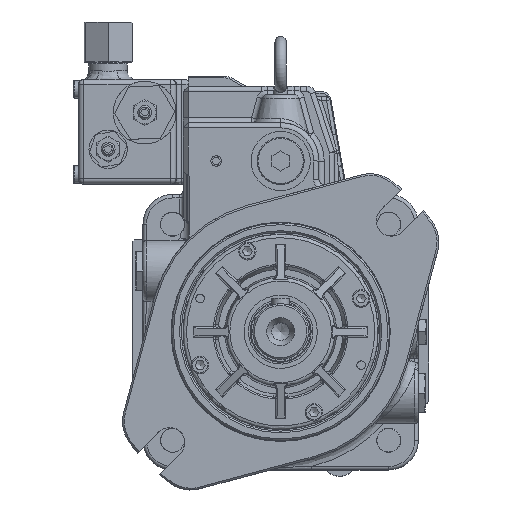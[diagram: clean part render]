
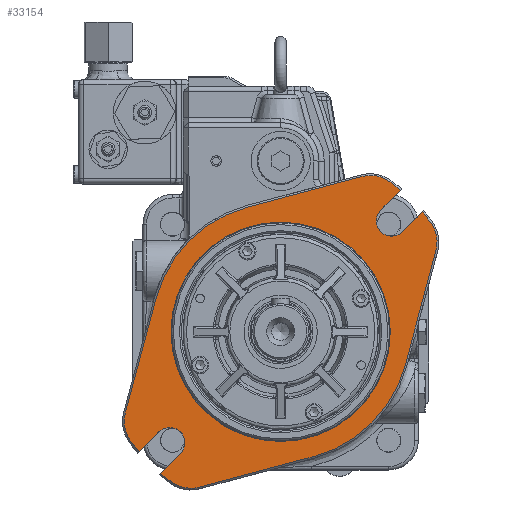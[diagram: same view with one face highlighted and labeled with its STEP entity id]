
A CAD part, top view. The second image highlights one B-rep face of the part: STEP entity #33154.
In plain terms, the highlighted planar face has unit normal (0, 0, 1).
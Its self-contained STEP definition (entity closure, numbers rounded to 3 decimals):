
#24979=CARTESIAN_POINT('',(89.092,46.582,19.));
#24980=VERTEX_POINT('',#24979);
#24987=CARTESIAN_POINT('',(71.479,-19.153,19.));
#24988=VERTEX_POINT('',#24987);
#24989=CARTESIAN_POINT('',(89.092,46.582,19.));
#24990=DIRECTION('',(-0.259,-0.966,0.));
#24991=VECTOR('',#24990,68.053);
#24992=LINE('',#24989,#24991);
#24993=EDGE_CURVE('',#24980,#24988,#24992,.T.);
#32332=CARTESIAN_POINT('',(68.865,81.239,19.));
#32333=VERTEX_POINT('',#32332);
#32347=CARTESIAN_POINT('',(57.452,69.827,19.));
#32348=VERTEX_POINT('',#32347);
#32349=CARTESIAN_POINT('',(68.865,81.239,19.));
#32350=DIRECTION('',(-0.707,-0.707,0.));
#32351=VECTOR('',#32350,16.14);
#32352=LINE('',#32349,#32351);
#32353=EDGE_CURVE('',#32333,#32348,#32352,.T.);
#32604=CARTESIAN_POINT('',(-69.827,-57.452,19.));
#32605=VERTEX_POINT('',#32604);
#32612=CARTESIAN_POINT('',(-81.239,-68.865,19.));
#32613=VERTEX_POINT('',#32612);
#32614=CARTESIAN_POINT('',(-69.827,-57.452,19.));
#32615=DIRECTION('',(-0.707,-0.707,0.));
#32616=VECTOR('',#32615,16.14);
#32617=LINE('',#32614,#32616);
#32618=EDGE_CURVE('',#32605,#32613,#32617,.T.);
#32818=CARTESIAN_POINT('',(-68.865,-81.239,19.));
#32819=VERTEX_POINT('',#32818);
#32833=CARTESIAN_POINT('',(-57.452,-69.827,19.));
#32834=VERTEX_POINT('',#32833);
#32835=CARTESIAN_POINT('',(-68.865,-81.239,19.));
#32836=DIRECTION('',(0.707,0.707,0.));
#32837=VECTOR('',#32836,16.14);
#32838=LINE('',#32835,#32837);
#32839=EDGE_CURVE('',#32819,#32834,#32838,.T.);
#32858=CARTESIAN_POINT('',(81.239,68.865,19.));
#32859=VERTEX_POINT('',#32858);
#32873=CARTESIAN_POINT('',(86.1,62.682,19.));
#32874=VERTEX_POINT('',#32873);
#32875=CARTESIAN_POINT('',(0.,0.,19.));
#32876=DIRECTION('',(0.,0.,-1.0));
#32877=DIRECTION('',(0.808,0.589,0.));
#32878=AXIS2_PLACEMENT_3D('',#32875,#32876,#32877);
#32879=CIRCLE('',#32878,106.5);
#32880=EDGE_CURVE('',#32859,#32874,#32879,.T.);
#32914=CARTESIAN_POINT('',(70.739,51.499,19.));
#32915=DIRECTION('',(0.,0.,-1.));
#32916=DIRECTION('',(0.966,-0.259,0.));
#32917=AXIS2_PLACEMENT_3D('',#32914,#32915,#32916);
#32918=CIRCLE('',#32917,19.);
#32919=EDGE_CURVE('',#32874,#24980,#32918,.T.);
#32929=CARTESIAN_POINT('',(19.153,-71.479,19.));
#32930=VERTEX_POINT('',#32929);
#32947=CARTESIAN_POINT('',(0.,0.,19.));
#32948=DIRECTION('',(0.,0.,-1.0));
#32949=DIRECTION('',(0.259,-0.966,0.));
#32950=AXIS2_PLACEMENT_3D('',#32947,#32948,#32949);
#32951=CIRCLE('',#32950,74.);
#32952=EDGE_CURVE('',#24988,#32930,#32951,.T.);
#32962=CARTESIAN_POINT('',(-46.582,-89.092,19.));
#32963=VERTEX_POINT('',#32962);
#32979=CARTESIAN_POINT('',(19.153,-71.479,19.));
#32980=DIRECTION('',(-0.966,-0.259,0.));
#32981=VECTOR('',#32980,68.053);
#32982=LINE('',#32979,#32981);
#32983=EDGE_CURVE('',#32930,#32963,#32982,.T.);
#32993=CARTESIAN_POINT('',(-62.682,-86.1,19.));
#32994=VERTEX_POINT('',#32993);
#33011=CARTESIAN_POINT('',(-51.499,-70.739,19.));
#33012=DIRECTION('',(0.,0.,-1.0));
#33013=DIRECTION('',(-0.589,-0.808,0.));
#33014=AXIS2_PLACEMENT_3D('',#33011,#33012,#33013);
#33015=CIRCLE('',#33014,19.);
#33016=EDGE_CURVE('',#32963,#32994,#33015,.T.);
#33035=CARTESIAN_POINT('',(0.,0.,19.));
#33036=DIRECTION('',(0.,0.,-1.));
#33037=DIRECTION('',(-0.647,-0.762,0.));
#33038=AXIS2_PLACEMENT_3D('',#33035,#33036,#33037);
#33039=CIRCLE('',#33038,106.5);
#33040=EDGE_CURVE('',#32994,#32819,#33039,.T.);
#33045=CARTESIAN_POINT('',(0.,0.,19.));
#33046=DIRECTION('',(0.0,0.0,1.0));
#33047=DIRECTION('',(1.0,0.0,0.0));
#33048=AXIS2_PLACEMENT_3D('',#33045,#33046,#33047);
#33049=PLANE('',#33048);
#33050=ORIENTED_EDGE('',*,*,#33040,.F.);
#33051=ORIENTED_EDGE('',*,*,#33016,.F.);
#33052=ORIENTED_EDGE('',*,*,#32983,.F.);
#33053=ORIENTED_EDGE('',*,*,#32952,.F.);
#33054=ORIENTED_EDGE('',*,*,#24993,.F.);
#33055=ORIENTED_EDGE('',*,*,#32919,.F.);
#33056=ORIENTED_EDGE('',*,*,#32880,.F.);
#33057=CARTESIAN_POINT('',(69.827,57.452,19.));
#33058=VERTEX_POINT('',#33057);
#33059=CARTESIAN_POINT('',(69.827,57.452,19.));
#33060=DIRECTION('',(0.707,0.707,0.));
#33061=VECTOR('',#33060,16.14);
#33062=LINE('',#33059,#33061);
#33063=EDGE_CURVE('',#33058,#32859,#33062,.T.);
#33064=ORIENTED_EDGE('',*,*,#33063,.F.);
#33065=CARTESIAN_POINT('',(63.64,63.64,19.));
#33066=DIRECTION('',(0.,0.,1.));
#33067=DIRECTION('',(-0.707,0.707,0.));
#33068=AXIS2_PLACEMENT_3D('',#33065,#33066,#33067);
#33069=CIRCLE('',#33068,8.75);
#33070=EDGE_CURVE('',#32348,#33058,#33069,.T.);
#33071=ORIENTED_EDGE('',*,*,#33070,.F.);
#33072=ORIENTED_EDGE('',*,*,#32353,.F.);
#33073=CARTESIAN_POINT('',(62.682,86.1,19.));
#33074=VERTEX_POINT('',#33073);
#33075=CARTESIAN_POINT('',(0.,0.,19.));
#33076=DIRECTION('',(0.,0.,-1.0));
#33077=DIRECTION('',(0.647,0.762,0.));
#33078=AXIS2_PLACEMENT_3D('',#33075,#33076,#33077);
#33079=CIRCLE('',#33078,106.5);
#33080=EDGE_CURVE('',#33074,#32333,#33079,.T.);
#33081=ORIENTED_EDGE('',*,*,#33080,.F.);
#33082=CARTESIAN_POINT('',(46.582,89.092,19.));
#33083=VERTEX_POINT('',#33082);
#33084=CARTESIAN_POINT('',(51.499,70.739,19.));
#33085=DIRECTION('',(0.,0.,-1.));
#33086=DIRECTION('',(0.589,0.808,0.));
#33087=AXIS2_PLACEMENT_3D('',#33084,#33085,#33086);
#33088=CIRCLE('',#33087,19.);
#33089=EDGE_CURVE('',#33083,#33074,#33088,.T.);
#33090=ORIENTED_EDGE('',*,*,#33089,.F.);
#33091=CARTESIAN_POINT('',(-19.153,71.479,19.));
#33092=VERTEX_POINT('',#33091);
#33093=CARTESIAN_POINT('',(-19.153,71.479,19.));
#33094=DIRECTION('',(0.966,0.259,0.));
#33095=VECTOR('',#33094,68.053);
#33096=LINE('',#33093,#33095);
#33097=EDGE_CURVE('',#33092,#33083,#33096,.T.);
#33098=ORIENTED_EDGE('',*,*,#33097,.F.);
#33099=CARTESIAN_POINT('',(-71.479,19.153,19.));
#33100=VERTEX_POINT('',#33099);
#33101=CARTESIAN_POINT('',(0.,0.,19.));
#33102=DIRECTION('',(0.,0.,-1.));
#33103=DIRECTION('',(-0.259,0.966,0.));
#33104=AXIS2_PLACEMENT_3D('',#33101,#33102,#33103);
#33105=CIRCLE('',#33104,74.);
#33106=EDGE_CURVE('',#33100,#33092,#33105,.T.);
#33107=ORIENTED_EDGE('',*,*,#33106,.F.);
#33108=CARTESIAN_POINT('',(-89.092,-46.582,19.));
#33109=VERTEX_POINT('',#33108);
#33110=CARTESIAN_POINT('',(-89.092,-46.582,19.));
#33111=DIRECTION('',(0.259,0.966,0.));
#33112=VECTOR('',#33111,68.053);
#33113=LINE('',#33110,#33112);
#33114=EDGE_CURVE('',#33109,#33100,#33113,.T.);
#33115=ORIENTED_EDGE('',*,*,#33114,.F.);
#33116=CARTESIAN_POINT('',(-86.1,-62.682,19.));
#33117=VERTEX_POINT('',#33116);
#33118=CARTESIAN_POINT('',(-70.739,-51.499,19.));
#33119=DIRECTION('',(0.,0.,-1.0));
#33120=DIRECTION('',(-0.966,0.259,0.));
#33121=AXIS2_PLACEMENT_3D('',#33118,#33119,#33120);
#33122=CIRCLE('',#33121,19.);
#33123=EDGE_CURVE('',#33117,#33109,#33122,.T.);
#33124=ORIENTED_EDGE('',*,*,#33123,.F.);
#33125=CARTESIAN_POINT('',(0.,0.,19.));
#33126=DIRECTION('',(0.,0.,-1.0));
#33127=DIRECTION('',(-0.808,-0.589,0.));
#33128=AXIS2_PLACEMENT_3D('',#33125,#33126,#33127);
#33129=CIRCLE('',#33128,106.5);
#33130=EDGE_CURVE('',#32613,#33117,#33129,.T.);
#33131=ORIENTED_EDGE('',*,*,#33130,.F.);
#33132=ORIENTED_EDGE('',*,*,#32618,.F.);
#33133=CARTESIAN_POINT('',(-63.64,-63.64,19.));
#33134=DIRECTION('',(0.,0.,1.));
#33135=DIRECTION('',(0.707,-0.707,0.));
#33136=AXIS2_PLACEMENT_3D('',#33133,#33134,#33135);
#33137=CIRCLE('',#33136,8.75);
#33138=EDGE_CURVE('',#32834,#32605,#33137,.T.);
#33139=ORIENTED_EDGE('',*,*,#33138,.F.);
#33140=ORIENTED_EDGE('',*,*,#32839,.F.);
#33141=EDGE_LOOP('',(#33050,#33051,#33052,#33053,#33054,#33055,#33056,#33064,#33071,#33072,#33081,#33090,#33098,#33107,#33115,#33124,#33131,#33132,#33139,#33140));
#33142=FACE_OUTER_BOUND('',#33141,.T.);
#33143=CARTESIAN_POINT('',(62.9,0.,19.));
#33144=VERTEX_POINT('',#33143);
#33145=CARTESIAN_POINT('',(0.,0.,19.));
#33146=DIRECTION('',(0.0,0.0,1.0));
#33147=DIRECTION('',(-1.0,0.0,0.0));
#33148=AXIS2_PLACEMENT_3D('',#33145,#33146,#33147);
#33149=CIRCLE('',#33148,62.9);
#33150=EDGE_CURVE('',#33144,#33144,#33149,.T.);
#33151=ORIENTED_EDGE('',*,*,#33150,.F.);
#33152=EDGE_LOOP('',(#33151));
#33153=FACE_BOUND('',#33152,.T.);
#33154=ADVANCED_FACE('',(#33142,#33153),#33049,.T.);
